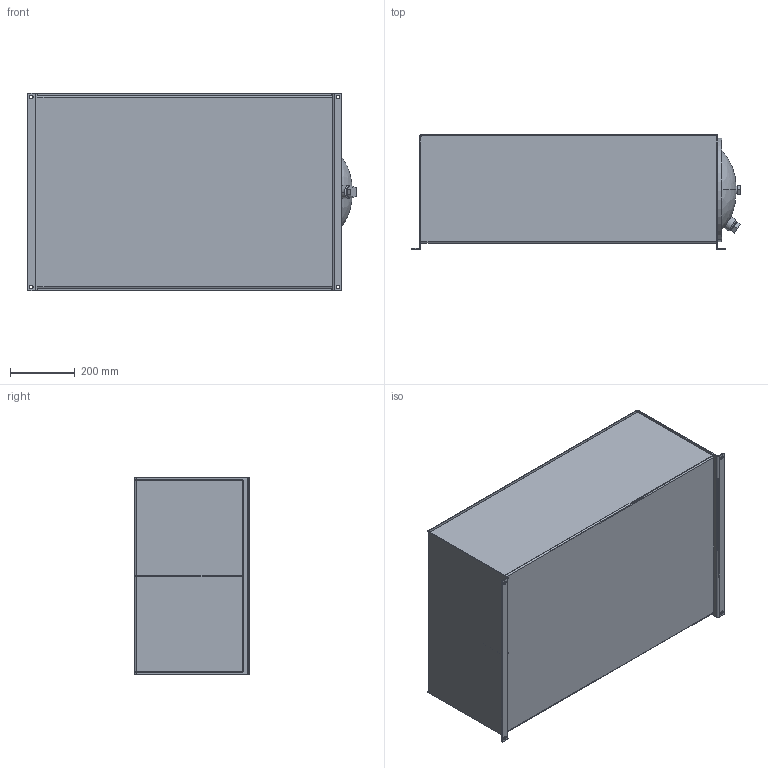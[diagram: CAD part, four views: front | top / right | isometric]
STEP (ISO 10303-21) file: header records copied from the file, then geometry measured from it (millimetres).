
FILE_DESCRIPTION (( 'STEP AP214' ), '1' );
FILE_NAME ('TH-40-FAB.STEP', '2026-04-16T11:25:14', ( '' ), ( '' ), 'SwSTEP 2.0', 'SolidWorks 2026', '' );
FILE_SCHEMA (( 'AUTOMOTIVE_DESIGN' ));
Length unit declared in the file: inch
Products named in the file (11): 0.625 - 11 BAFFLE NUT; 0.625 - 11 HEX BOLT; TL-ECD-12; 12.00 GASKET; TH-40-BFL; TH-40-FAB; CRUSH WASHER; TH-40-TOP; 12.00 END COVER WITH DRAIN; TH-40-BDY; DRAIN
Assembly tree (10 placements, depth 3):
  TH-40-FAB
    TH-40-TOP
    TH-40-BDY
    TH-40-BFL
    TL-ECD-12
      0.625 - 11 HEX BOLT
      0.625 - 11 BAFFLE NUT
      12.00 GASKET
      CRUSH WASHER
      12.00 END COVER WITH DRAIN
      DRAIN
Bounding box: 1016.61 x 355.6 x 609.6 mm (x, y, z)
Volume: 8794914 mm3; surface area: 5095755.8 mm2
Topology: 10 solids, 10 shells, 178 faces, 404 edges, 252 vertices
Faces by surface type: plane 98, cylinder 70, cone 6, bspline 4
Entity records: 5634 total; most frequent: CARTESIAN_POINT 1102, DIRECTION 924, ORIENTED_EDGE 808, EDGE_CURVE 404, AXIS2_PLACEMENT_3D 340, VERTEX_POINT 252, LINE 244, VECTOR 244
